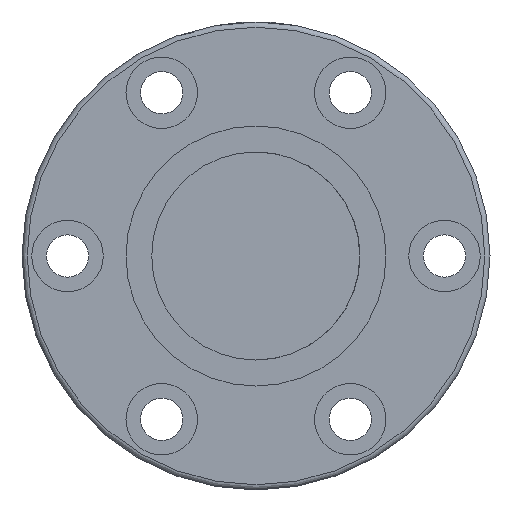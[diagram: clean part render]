
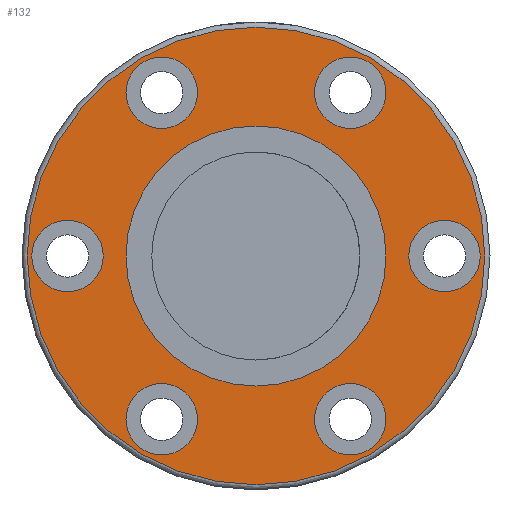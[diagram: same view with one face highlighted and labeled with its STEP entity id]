
A CAD part, front view. The second image highlights one B-rep face of the part: STEP entity #132.
In plain terms, the highlighted planar face has unit normal (0, -1, 0).
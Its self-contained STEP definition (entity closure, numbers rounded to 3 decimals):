
#112=PLANE('',#649);
#132=ADVANCED_FACE('',(#203,#204,#205,#206,#207,#208,#209,#210),#112,.F.);
#203=FACE_BOUND('',#298,.T.);
#204=FACE_BOUND('',#299,.T.);
#205=FACE_BOUND('',#300,.T.);
#206=FACE_BOUND('',#301,.T.);
#207=FACE_BOUND('',#302,.T.);
#208=FACE_BOUND('',#303,.T.);
#209=FACE_BOUND('',#304,.T.);
#210=FACE_BOUND('',#305,.T.);
#298=EDGE_LOOP('',(#396));
#299=EDGE_LOOP('',(#397));
#300=EDGE_LOOP('',(#398));
#301=EDGE_LOOP('',(#399));
#302=EDGE_LOOP('',(#400));
#303=EDGE_LOOP('',(#401));
#304=EDGE_LOOP('',(#402));
#305=EDGE_LOOP('',(#403));
#396=ORIENTED_EDGE('',*,*,#539,.T.);
#397=ORIENTED_EDGE('',*,*,#540,.T.);
#398=ORIENTED_EDGE('',*,*,#541,.T.);
#399=ORIENTED_EDGE('',*,*,#542,.T.);
#400=ORIENTED_EDGE('',*,*,#543,.T.);
#401=ORIENTED_EDGE('',*,*,#544,.T.);
#402=ORIENTED_EDGE('',*,*,#545,.T.);
#403=ORIENTED_EDGE('',*,*,#546,.F.);
#490=VERTEX_POINT('',#925);
#491=VERTEX_POINT('',#927);
#492=VERTEX_POINT('',#929);
#493=VERTEX_POINT('',#931);
#494=VERTEX_POINT('',#933);
#495=VERTEX_POINT('',#935);
#496=VERTEX_POINT('',#937);
#497=VERTEX_POINT('',#939);
#539=EDGE_CURVE('',#490,#490,#588,.T.);
#540=EDGE_CURVE('',#491,#491,#589,.T.);
#541=EDGE_CURVE('',#492,#492,#590,.T.);
#542=EDGE_CURVE('',#493,#493,#591,.T.);
#543=EDGE_CURVE('',#494,#494,#592,.T.);
#544=EDGE_CURVE('',#495,#495,#593,.T.);
#545=EDGE_CURVE('',#496,#496,#594,.T.);
#546=EDGE_CURVE('',#497,#497,#595,.T.);
#588=CIRCLE('',#641,5.5);
#589=CIRCLE('',#642,5.5);
#590=CIRCLE('',#643,5.5);
#591=CIRCLE('',#644,5.5);
#592=CIRCLE('',#645,5.5);
#593=CIRCLE('',#646,5.5);
#594=CIRCLE('',#647,35.2);
#595=CIRCLE('',#648,20.);
#641=AXIS2_PLACEMENT_3D('',#924,#743,#744);
#642=AXIS2_PLACEMENT_3D('',#926,#745,#746);
#643=AXIS2_PLACEMENT_3D('',#928,#747,#748);
#644=AXIS2_PLACEMENT_3D('',#930,#749,#750);
#645=AXIS2_PLACEMENT_3D('',#932,#751,#752);
#646=AXIS2_PLACEMENT_3D('',#934,#753,#754);
#647=AXIS2_PLACEMENT_3D('',#936,#755,#756);
#648=AXIS2_PLACEMENT_3D('',#938,#757,#758);
#649=AXIS2_PLACEMENT_3D('',#940,#759,#760);
#743=DIRECTION('',(0.,1.,0.));
#744=DIRECTION('',(0.,0.,1.));
#745=DIRECTION('',(0.,1.,0.));
#746=DIRECTION('',(0.,0.,1.));
#747=DIRECTION('',(0.,1.,0.));
#748=DIRECTION('',(0.,0.,1.));
#749=DIRECTION('',(0.,1.,0.));
#750=DIRECTION('',(0.,0.,1.));
#751=DIRECTION('',(0.,1.,0.));
#752=DIRECTION('',(0.,0.,1.));
#753=DIRECTION('',(0.,1.,0.));
#754=DIRECTION('',(0.,0.,1.));
#755=DIRECTION('',(0.,-1.,0.));
#756=DIRECTION('',(0.,0.,1.));
#757=DIRECTION('',(0.,-1.,0.));
#758=DIRECTION('',(1.,0.,0.));
#759=DIRECTION('',(0.,1.,0.));
#760=DIRECTION('',(0.,0.,1.));
#924=CARTESIAN_POINT('',(29.039,-25.961,0.));
#925=CARTESIAN_POINT('',(29.039,-25.961,5.5));
#926=CARTESIAN_POINT('',(-28.961,-25.961,0.));
#927=CARTESIAN_POINT('',(-28.961,-25.961,5.5));
#928=CARTESIAN_POINT('',(14.539,-25.961,-25.115));
#929=CARTESIAN_POINT('',(14.539,-25.961,-19.615));
#930=CARTESIAN_POINT('',(-14.461,-25.961,-25.115));
#931=CARTESIAN_POINT('',(-14.461,-25.961,-19.615));
#932=CARTESIAN_POINT('',(14.539,-25.961,25.115));
#933=CARTESIAN_POINT('',(14.539,-25.961,30.615));
#934=CARTESIAN_POINT('',(-14.461,-25.961,25.115));
#935=CARTESIAN_POINT('',(-14.461,-25.961,30.615));
#936=CARTESIAN_POINT('',(0.039,-25.961,0.));
#937=CARTESIAN_POINT('',(0.039,-25.961,35.2));
#938=CARTESIAN_POINT('',(0.039,-25.961,0.));
#939=CARTESIAN_POINT('',(20.039,-25.961,0.));
#940=CARTESIAN_POINT('',(0.039,-25.961,0.));
